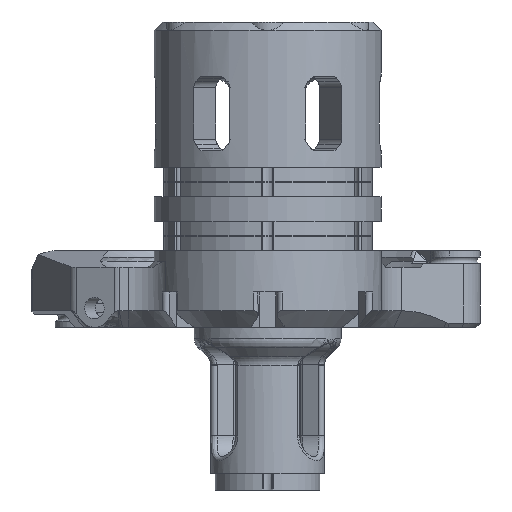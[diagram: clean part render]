
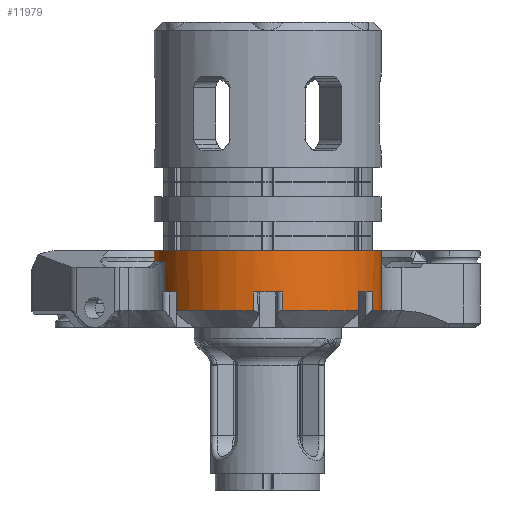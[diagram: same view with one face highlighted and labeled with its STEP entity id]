
A CAD part, front view. The second image highlights one B-rep face of the part: STEP entity #11979.
In plain terms, the highlighted cylindrical face has radius 27.335 mm (diameter 54.67 mm), a full revolution.
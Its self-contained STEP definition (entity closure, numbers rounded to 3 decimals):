
#672=CYLINDRICAL_SURFACE('',#12810,27.335);
#1025=CIRCLE('',#12811,27.335);
#1026=CIRCLE('',#12812,27.335);
#1027=CIRCLE('',#12813,27.335);
#1028=CIRCLE('',#12814,27.335);
#1029=CIRCLE('',#12815,27.335);
#1030=CIRCLE('',#12816,27.335);
#1031=CIRCLE('',#12817,27.335);
#1032=CIRCLE('',#12818,27.335);
#1859=ORIENTED_EDGE('',*,*,#5609,.T.);
#1860=ORIENTED_EDGE('',*,*,#5610,.T.);
#1861=ORIENTED_EDGE('',*,*,#5611,.T.);
#1862=ORIENTED_EDGE('',*,*,#5612,.F.);
#1863=ORIENTED_EDGE('',*,*,#5613,.T.);
#1864=ORIENTED_EDGE('',*,*,#5614,.T.);
#1865=ORIENTED_EDGE('',*,*,#5615,.T.);
#1866=ORIENTED_EDGE('',*,*,#5616,.F.);
#1867=ORIENTED_EDGE('',*,*,#5617,.T.);
#1868=ORIENTED_EDGE('',*,*,#5618,.T.);
#1869=ORIENTED_EDGE('',*,*,#5619,.T.);
#1870=ORIENTED_EDGE('',*,*,#5620,.F.);
#1871=ORIENTED_EDGE('',*,*,#5621,.T.);
#1872=ORIENTED_EDGE('',*,*,#5622,.T.);
#1873=ORIENTED_EDGE('',*,*,#5623,.F.);
#5609=EDGE_CURVE('',#7476,#7477,#8602,.F.);
#5610=EDGE_CURVE('',#7477,#7478,#1025,.T.);
#5611=EDGE_CURVE('',#7478,#7479,#8603,.T.);
#5612=EDGE_CURVE('',#7480,#7479,#1026,.T.);
#5613=EDGE_CURVE('',#7480,#7481,#8604,.T.);
#5614=EDGE_CURVE('',#7481,#7482,#1027,.T.);
#5615=EDGE_CURVE('',#7482,#7483,#8605,.F.);
#5616=EDGE_CURVE('',#7484,#7483,#1028,.T.);
#5617=EDGE_CURVE('',#7484,#7485,#8606,.T.);
#5618=EDGE_CURVE('',#7485,#7486,#1029,.T.);
#5619=EDGE_CURVE('',#7486,#7487,#8607,.F.);
#5620=EDGE_CURVE('',#7488,#7487,#1030,.T.);
#5621=EDGE_CURVE('',#7488,#7489,#8608,.T.);
#5622=EDGE_CURVE('',#7489,#7476,#1031,.T.);
#5623=EDGE_CURVE('',#7490,#7490,#1032,.T.);
#7476=VERTEX_POINT('',#18090);
#7477=VERTEX_POINT('',#18091);
#7478=VERTEX_POINT('',#18093);
#7479=VERTEX_POINT('',#18095);
#7480=VERTEX_POINT('',#18097);
#7481=VERTEX_POINT('',#18099);
#7482=VERTEX_POINT('',#18101);
#7483=VERTEX_POINT('',#18103);
#7484=VERTEX_POINT('',#18105);
#7485=VERTEX_POINT('',#18107);
#7486=VERTEX_POINT('',#18109);
#7487=VERTEX_POINT('',#18111);
#7488=VERTEX_POINT('',#18113);
#7489=VERTEX_POINT('',#18115);
#7490=VERTEX_POINT('',#18118);
#8602=LINE('',#18089,#9418);
#8603=LINE('',#18094,#9419);
#8604=LINE('',#18098,#9420);
#8605=LINE('',#18102,#9421);
#8606=LINE('',#18106,#9422);
#8607=LINE('',#18110,#9423);
#8608=LINE('',#18114,#9424);
#9418=VECTOR('',#14403,1000.);
#9419=VECTOR('',#14406,1000.);
#9420=VECTOR('',#14409,1000.);
#9421=VECTOR('',#14412,1000.);
#9422=VECTOR('',#14415,1000.);
#9423=VECTOR('',#14418,1000.);
#9424=VECTOR('',#14421,1000.);
#10112=EDGE_LOOP('',(#1859,#1860,#1861,#1862,#1863,#1864,#1865,#1866,#1867,
#1868,#1869,#1870,#1871,#1872));
#10113=EDGE_LOOP('',(#1873));
#10923=FACE_BOUND('',#10112,.T.);
#10924=FACE_BOUND('',#10113,.T.);
#11979=ADVANCED_FACE('',(#10923,#10924),#672,.T.);
#12810=AXIS2_PLACEMENT_3D('',#18088,#14401,#14402);
#12811=AXIS2_PLACEMENT_3D('',#18092,#14404,#14405);
#12812=AXIS2_PLACEMENT_3D('',#18096,#14407,#14408);
#12813=AXIS2_PLACEMENT_3D('',#18100,#14410,#14411);
#12814=AXIS2_PLACEMENT_3D('',#18104,#14413,#14414);
#12815=AXIS2_PLACEMENT_3D('',#18108,#14416,#14417);
#12816=AXIS2_PLACEMENT_3D('',#18112,#14419,#14420);
#12817=AXIS2_PLACEMENT_3D('',#18116,#14422,#14423);
#12818=AXIS2_PLACEMENT_3D('',#18117,#14424,#14425);
#14401=DIRECTION('',(0.,0.,-1.));
#14402=DIRECTION('',(-1.,0.,0.));
#14403=DIRECTION('',(0.,0.,-1.));
#14404=DIRECTION('',(0.,0.,1.));
#14405=DIRECTION('',(1.,0.,0.));
#14406=DIRECTION('',(0.,0.,-1.));
#14407=DIRECTION('',(0.,0.,-1.));
#14408=DIRECTION('',(-1.,0.,0.));
#14409=DIRECTION('',(0.,0.,-1.));
#14410=DIRECTION('',(0.,0.,1.));
#14411=DIRECTION('',(1.,0.,0.));
#14412=DIRECTION('',(0.,0.,-1.));
#14413=DIRECTION('',(0.,0.,-1.));
#14414=DIRECTION('',(-1.,0.,0.));
#14415=DIRECTION('',(0.,0.,-1.));
#14416=DIRECTION('',(0.,0.,1.));
#14417=DIRECTION('',(1.,0.,0.));
#14418=DIRECTION('',(0.,0.,-1.));
#14419=DIRECTION('',(0.,0.,-1.));
#14420=DIRECTION('',(-1.,0.,0.));
#14421=DIRECTION('',(0.,0.,-1.));
#14422=DIRECTION('',(0.,0.,1.));
#14423=DIRECTION('',(1.,0.,0.));
#14424=DIRECTION('',(0.,0.,1.));
#14425=DIRECTION('',(0.866,-0.5,0.));
#18088=CARTESIAN_POINT('',(0.,0.,19.154));
#18089=CARTESIAN_POINT('',(27.31,1.16,19.154));
#18090=CARTESIAN_POINT('',(27.31,1.16,4.702));
#18091=CARTESIAN_POINT('',(27.31,1.16,16.607));
#18092=CARTESIAN_POINT('',(0.,0.,16.607));
#18093=CARTESIAN_POINT('',(-24.503,-12.117,16.607));
#18094=CARTESIAN_POINT('',(-24.503,-12.117,19.154));
#18095=CARTESIAN_POINT('',(-24.503,-12.117,9.202));
#18096=CARTESIAN_POINT('',(0.,0.,9.202));
#18097=CARTESIAN_POINT('',(-21.751,-16.556,9.202));
#18098=CARTESIAN_POINT('',(-21.751,-16.556,9.202));
#18099=CARTESIAN_POINT('',(-21.751,-16.556,4.702));
#18100=CARTESIAN_POINT('',(0.,0.,4.702));
#18101=CARTESIAN_POINT('',(-3.462,-27.115,4.702));
#18102=CARTESIAN_POINT('',(-3.462,-27.115,4.702));
#18103=CARTESIAN_POINT('',(-3.462,-27.115,9.202));
#18104=CARTESIAN_POINT('',(0.,0.,9.202));
#18105=CARTESIAN_POINT('',(3.462,-27.115,9.202));
#18106=CARTESIAN_POINT('',(3.462,-27.115,9.202));
#18107=CARTESIAN_POINT('',(3.462,-27.115,4.702));
#18108=CARTESIAN_POINT('',(0.,0.,4.702));
#18109=CARTESIAN_POINT('',(21.751,-16.556,4.702));
#18110=CARTESIAN_POINT('',(21.751,-16.556,4.702));
#18111=CARTESIAN_POINT('',(21.751,-16.556,9.202));
#18112=CARTESIAN_POINT('',(0.,0.,9.202));
#18113=CARTESIAN_POINT('',(25.213,-10.559,9.202));
#18114=CARTESIAN_POINT('',(25.213,-10.559,9.202));
#18115=CARTESIAN_POINT('',(25.213,-10.559,4.702));
#18116=CARTESIAN_POINT('',(0.,0.,4.702));
#18117=CARTESIAN_POINT('',(0.,0.,19.154));
#18118=CARTESIAN_POINT('',(23.673,-13.668,19.154));
